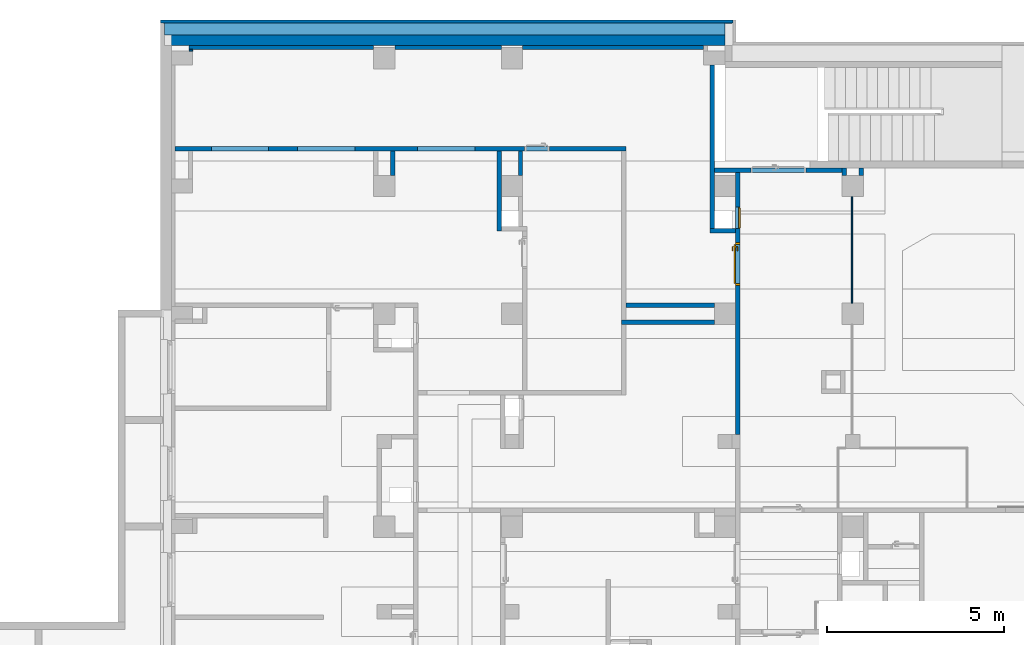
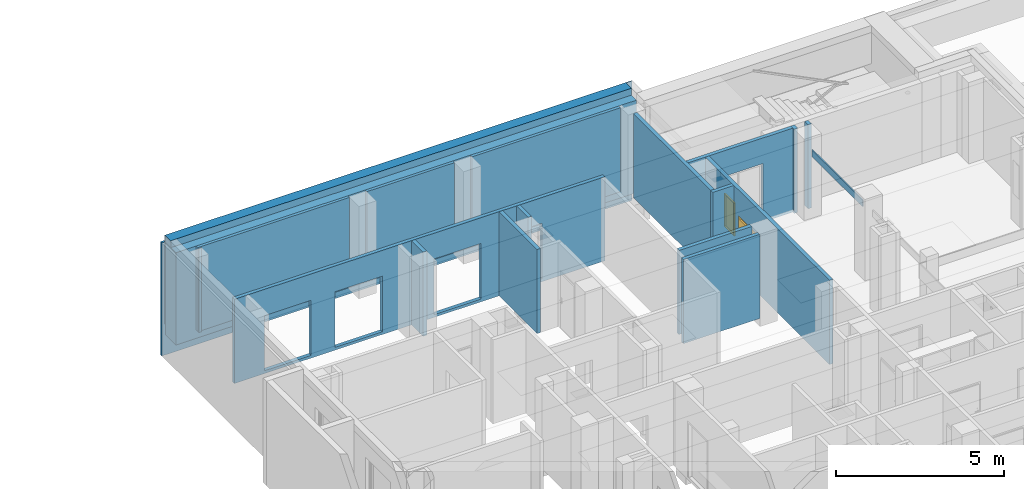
# One storey, part 41 of 84: 19 walls, 1 door, 1 window, 7 openings.
"""IFC4 building model written with IfcOpenShell, lengths in metres."""

from ifc_helpers import new_model, entity, si_unit, converted_unit, derived_unit, frame, frame_2d, origin, origin_with_axes, place, context, subcontext, project, spatial, polyline, rectangle, outline, extrude, clip, bounded_halfspace, closed_shell, open_shell, faceted_brep, surface_model, source, transform, mapped, material, layer, layer_set, layer_usage, type_object, element, fill, save


model = new_model("IFC4")

# Units and contexts
model_context = context("Model", 3, precision=1e-05, world=origin())
body_context = subcontext(model_context, "Body", "Model", "MODEL_VIEW")
ifc_project = project(units=[si_unit("LENGTHUNIT", "METRE"), si_unit("AREAUNIT", "SQUARE_METRE"), si_unit("VOLUMEUNIT", "CUBIC_METRE"), si_unit("MASSUNIT", "GRAM", prefix="KILO"), converted_unit("PLANEANGLEUNIT", "DEGREE", entity("IfcPlaneAngleMeasure", 0.0174532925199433), si_unit("PLANEANGLEUNIT", "RADIAN"), dimensions=[0, 0, 0, 0, 0, 0, 0]), derived_unit("THERMALTRANSMITTANCEUNIT", [(si_unit("POWERUNIT", "WATT"), 1), (si_unit("THERMODYNAMICTEMPERATUREUNIT", "KELVIN"), -1), (si_unit("LENGTHUNIT", "METRE"), -2)]), derived_unit("VOLUMETRICFLOWRATEUNIT", [(si_unit("LENGTHUNIT", "METRE"), 3), (converted_unit("TIMEUNIT", "hour", entity("IfcTimeMeasure", 3600.0), si_unit("TIMEUNIT", "SECOND"), dimensions=[0, 0, 1, 0, 0, 0, 0]), -1), (si_unit("LENGTHUNIT", "METRE"), -1)])], contexts=[model_context])

# Site, building, storey
site_placement = place(None, origin())
site = spatial("IfcSite", under=ifc_project, at=site_placement, Name="3. ASŘ", CompositionType="ELEMENT")
building_placement = place(site_placement, origin())
building = spatial("IfcBuilding", under=site, at=building_placement, Name="Pavilon C", CompositionType="ELEMENT")
storey_placement = place(building_placement, frame((0.0, 0.0, -3.3)))
storey = spatial("IfcBuildingStorey", under=building, at=storey_placement, Name="Půdorys 1.PP", CompositionType="ELEMENT", Elevation=-3.3)

# Wall
ifc_material_1 = material(Name="ZDIVO Z CDm")
ifc_layer_1 = layer(ifc_material_1, 0.125)
ifc_layer_set_1 = layer_set([ifc_layer_1])
ifc_layer_usage_1 = layer_usage(ifc_layer_set_1, "AXIS2", "POSITIVE", 0.0)
wall_1_placement = place(storey_placement, frame((40.05, 27.6, -0.1), z_axis=(0.0, 0.0, 1.0), x_axis=(0.0, 1.0, 0.0)))
element("IfcWall", 1, at=wall_1_placement, inside=storey, material=ifc_layer_usage_1, Name="ZDIVO Z CDm", context=body_context, shape_type="SweptSolid", body=[
    extrude(rectangle(XDim=4.6, YDim=0.125, at=frame_2d((2.3, 0.0625), x_axis=(1.0, 0.0))), origin_with_axes(), (0.0, 0.0, 1.0), 3.05),
])

# Wall, opening
ifc_material_2 = material(Name="ZDIVO Z CDm")
ifc_layer_2 = layer(ifc_material_2, 0.125)
ifc_layer_set_2 = layer_set([ifc_layer_2])
ifc_layer_usage_2 = layer_usage(ifc_layer_set_2, "AXIS2", "POSITIVE", 0.0)
wall_2_placement = place(storey_placement, frame((43.65, 29.3, -0.1), z_axis=(0.0, 0.0, 1.0), x_axis=(-1.0, 0.0, 0.0)))
wall_2 = element("IfcWall", 2, at=wall_2_placement, inside=storey, material=ifc_layer_usage_2, Name="ZDIVO Z CDm", context=body_context, shape_type="SweptSolid", body=[
    extrude(rectangle(XDim=3.6, YDim=0.125, at=frame_2d((1.8, 0.0625), x_axis=(1.0, 0.0))), origin_with_axes(), (0.0, 0.0, 1.0), 3.05),
])
opening_1_placement = place(wall_2_placement, frame((1.025, 0.0, 0.1), z_axis=(0.0, 1.0, 0.0), x_axis=(0.0, 0.0, 1.0)))
element("IfcOpeningElement", 3, at=opening_1_placement, cuts=wall_2, Name="Dveřní otvor", ObjectType="Opening", context=body_context, shape_type="SweptSolid", body=[
    extrude(outline(polyline([(0.0, 1.55), (2.02, 1.55), (2.02, 0.0), (0.0, 0.0), (0.0, 1.55)])), origin_with_axes(), (0.0, 0.0, 1.0), 0.125),
])

# Walls
ifc_material_3 = material(Name="ZDIVO Z CDm")
ifc_layer_3 = layer(ifc_material_3, 0.125)
ifc_layer_set_3 = layer_set([ifc_layer_3])
ifc_layer_usage_3 = layer_usage(ifc_layer_set_3, "AXIS2", "POSITIVE", 0.0)
wall_3_placement = place(storey_placement, frame((43.65, 29.3, -0.1), z_axis=(0.0, 0.0, 1.0), x_axis=(0.0, -1.0, 0.0)))
element("IfcWall", 4, at=wall_3_placement, inside=storey, material=ifc_layer_usage_3, Name="ZDIVO Z CDm", context=body_context, shape_type="SweptSolid", body=[
    extrude(rectangle(XDim=0.199999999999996, YDim=0.125, at=frame_2d((0.0999999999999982, 0.0625), x_axis=(1.0, 0.0))), origin_with_axes(), (0.0, 0.0, 1.0), 3.05),
])
ifc_material_4 = material(Name="ZDIVO Z CDm")
ifc_layer_4 = layer(ifc_material_4, 0.125)
ifc_layer_set_4 = layer_set([ifc_layer_4])
ifc_layer_usage_4 = layer_usage(ifc_layer_set_4, "AXIS2", "POSITIVE", 0.0)
wall_4_placement = place(storey_placement, frame((44.25, 29.1, -0.1), z_axis=(0.0, 0.0, 1.0), x_axis=(0.0, 1.0, 0.0)))
element("IfcWall", 5, at=wall_4_placement, inside=storey, material=ifc_layer_usage_4, Name="ZDIVO Z CDm", context=body_context, shape_type="SweptSolid", body=[
    extrude(rectangle(XDim=0.199999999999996, YDim=0.125, at=frame_2d((0.0999999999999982, 0.0625), x_axis=(1.0, 0.0))), origin_with_axes(), (0.0, 0.0, 1.0), 3.05),
])
ifc_material_5 = material(Name="ZELEZOBETONOVÁ KCE")
ifc_layer_5 = layer(ifc_material_5, 0.62)
ifc_material_6 = material(Name="LIGNOPOR")
ifc_layer_6 = layer(ifc_material_6, 0.025)
ifc_material_7 = material(Name="PÓROBETONOVÉ ZDIVO")
ifc_layer_7 = layer(ifc_material_7, 0.08)
ifc_layer_set_5 = layer_set([ifc_layer_5, ifc_layer_6, ifc_layer_7])
ifc_layer_usage_5 = layer_usage(ifc_layer_set_5, "AXIS2", "POSITIVE", 0.0)
wall_5_placement = place(storey_placement, frame((24.55, 32.75, -1.15), z_axis=(0.0, 0.0, 1.0), x_axis=(1.0, -2.30251823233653e-16, 0.0)))
element("IfcWall", 6, at=wall_5_placement, inside=storey, material=ifc_layer_usage_5, Name="ZELEZOBETONOVÁ KCE", context=body_context, shape_type="Clipping", body=[
    clip(clip(extrude(outline(polyline([(0.105, 3.66215524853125e-15), (15.905, 3.66215524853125e-15), (15.905, 0.62), (16.105, 0.62), (16.105, 0.645), (16.13, 0.645), (16.13, 0.725), (-1.66932571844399e-16, 0.725000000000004), (-1.48512425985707e-16, 0.645000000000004), (0.0799999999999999, 0.645000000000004), (0.0799999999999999, 0.620000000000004), (0.105, 0.620000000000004), (0.105, 3.66215524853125e-15)])), frame((-0.105, -3.66215524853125e-15, 0.0), z_axis=(0.0, 0.0, 1.0), x_axis=(1.0, 0.0, 0.0)), (0.0, 0.0, 1.0), 4.1), bounded_halfspace(frame((7.9, 0.309999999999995, 0.750000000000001), z_axis=(0.0, 0.0, 1.0), x_axis=(2.30251823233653e-16, -1.0, 0.0)), True, origin_with_axes(), polyline([(-1.42756130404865e-16, 0.62), (0.0, 0.0), (15.8, 0.0), (15.8, 0.619999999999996), (-1.42756130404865e-16, 0.62)]))), bounded_halfspace(frame((7.95833333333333, 0.62833333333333, 1.15), z_axis=(0.0, 0.0, 1.0), x_axis=(2.30251823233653e-16, -1.0, 0.0)), True, origin_with_axes(), polyline([(-0.0249999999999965, 0.645), (-0.0249999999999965, 0.62), (-1.42756130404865e-16, 0.62), (15.8, 0.619999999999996), (16.0, 0.619999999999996), (16.0, 0.644999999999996), (-0.0249999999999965, 0.645)]))),
])
ifc_material_8 = material(Name="ZDIVO Z CDm")
ifc_layer_8 = layer(ifc_material_8, 0.125)
ifc_layer_set_6 = layer_set([ifc_layer_8])
ifc_layer_usage_6 = layer_usage(ifc_layer_set_6, "AXIS2", "POSITIVE", 0.0)
wall_6_placement = place(storey_placement, frame((40.65, 27.6, -0.1), z_axis=(0.0, 0.0, 1.0), x_axis=(-1.0, 0.0, 0.0)))
element("IfcWall", 7, at=wall_6_placement, inside=storey, material=ifc_layer_usage_6, Name="ZDIVO Z CDm", context=body_context, shape_type="SweptSolid", body=[
    extrude(rectangle(XDim=0.725, YDim=0.125, at=frame_2d((0.3625, 0.0625), x_axis=(1.0, 0.0))), origin_with_axes(), (0.0, 0.0, 1.0), 3.05),
])
ifc_material_9 = material(Name="ZDIVO Z CDm")
ifc_layer_9 = layer(ifc_material_9, 0.125)
ifc_layer_set_7 = layer_set([ifc_layer_9])
ifc_layer_usage_7 = layer_usage(ifc_layer_set_7, "AXIS2", "POSITIVE", 0.0)
wall_7_placement = place(storey_placement, frame((40.05, 25.5, -0.1), z_axis=(0.0, 0.0, 1.0), x_axis=(-1.0, 0.0, 0.0)))
element("IfcWall", 8, at=wall_7_placement, inside=storey, material=ifc_layer_usage_7, Name="ZDIVO Z CDm", context=body_context, shape_type="SweptSolid", body=[
    extrude(rectangle(XDim=2.495, YDim=0.125, at=frame_2d((1.2475, 0.0625), x_axis=(1.0, 0.0))), origin_with_axes(), (0.0, 0.0, 1.0), 3.05),
])
ifc_material_10 = material(Name="ZDIVO Z CDm")
ifc_layer_10 = layer(ifc_material_10, 0.125)
ifc_layer_set_8 = layer_set([ifc_layer_10])
ifc_layer_usage_8 = layer_usage(ifc_layer_set_8, "AXIS2", "POSITIVE", 0.0)
wall_8_placement = place(storey_placement, frame((37.43, 24.9, -0.1)))
element("IfcWall", 9, at=wall_8_placement, inside=storey, material=ifc_layer_usage_8, Name="ZDIVO Z CDm", context=body_context, shape_type="SweptSolid", body=[
    extrude(rectangle(XDim=2.62, YDim=0.125, at=frame_2d((1.31, 0.0625), x_axis=(1.0, 0.0))), origin_with_axes(), (0.0, 0.0, 1.0), 3.05),
])
ifc_material_11 = material(Name="SDK SVISLA CAST PODHLEDU")
ifc_layer_11 = layer(ifc_material_11, 0.04)
ifc_layer_set_9 = layer_set([ifc_layer_11])
ifc_layer_usage_9 = layer_usage(ifc_layer_set_9, "AXIS2", "POSITIVE", 0.0)
wall_9_placement = place(storey_placement, frame((43.95, 25.5, 2.24), z_axis=(0.0, 0.0, 1.0), x_axis=(0.0, 1.0, 0.0)))
element("IfcWall", 10, at=wall_9_placement, inside=storey, material=ifc_layer_usage_9, Name="SDK SVISLA CAST PODHLEDU", context=body_context, shape_type="SweptSolid", body=[
    extrude(rectangle(XDim=3.0, YDim=0.04, at=frame_2d((1.5, 0.02), x_axis=(1.0, 0.0))), origin_with_axes(), (0.0, 0.0, 1.0), 0.24),
])

# Wall, openings, door, window
ifc_material_12 = material(Name="ZDIVO Z CDm")
ifc_layer_12 = layer(ifc_material_12, 0.125)
ifc_layer_set_10 = layer_set([ifc_layer_12])
ifc_layer_usage_10 = layer_usage(ifc_layer_set_10, "AXIS2", "POSITIVE", 0.0)
wall_10_placement = place(storey_placement, frame((40.65, 29.175, -0.1), z_axis=(0.0, 0.0, 1.0), x_axis=(0.0, -1.0, 0.0)))
wall_10 = element("IfcWall", 11, at=wall_10_placement, inside=storey, material=ifc_layer_usage_10, Name="ZDIVO Z CDm", context=body_context, shape_type="SweptSolid", body=[
    extrude(rectangle(XDim=7.37499999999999, YDim=0.125, at=frame_2d((3.6875, 0.0625), x_axis=(1.0, 0.0))), origin_with_axes(), (0.0, 0.0, 1.0), 3.05),
])
opening_2_placement = place(wall_10_placement, frame((1.975, 0.0, 0.1), z_axis=(0.0, 1.0, 0.0), x_axis=(0.0, 0.0, 1.0)))
opening_2 = element("IfcOpeningElement", 12, at=opening_2_placement, cuts=wall_10, Name="Dveřní otvor", ObjectType="Opening", context=body_context, shape_type="SweptSolid", body=[
    extrude(outline(polyline([(0.0, 1.2), (2.02, 1.2), (2.02, 0.0), (0.0, 0.0), (0.0, 1.2)])), origin_with_axes(), (0.0, 0.0, 1.0), 0.125),
])
opening_3_placement = place(wall_10_placement, frame((1.57500000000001, 0.125, 1.1), z_axis=(0.0, -1.0, 0.0), x_axis=(0.0, 0.0, 1.0)))
opening_3 = element("IfcOpeningElement", 13, at=opening_3_placement, cuts=wall_10, Name="Okenní otvor", ObjectType="Opening", context=body_context, shape_type="SweptSolid", body=[
    extrude(outline(polyline([(0.0, 0.6), (1.2, 0.6), (1.2, 0.0), (0.0, 0.0), (0.0, 0.6)])), origin_with_axes(), (0.0, 0.0, 1.0), 0.125),
])
door_type = type_object("IfcDoorType", Name="D101", OperationType="NOTDEFINED", ParameterTakesPrecedence=False, PredefinedType="DOOR")
shared_shape_1 = source(origin_with_axes(), body_context, "Body", "SurfaceModel", [
    surface_model("IfcShellBasedSurfaceModel", [(0.0, 0.125, 2.02), (0.0, 0.125, -7.65404249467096e-18), (0.05, 0.125, -7.65404249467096e-18), (0.05, 0.125, 2.02), (0.0, 0.0, 7.65404249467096e-18), (0.0, 2.41584530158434e-16, 2.02), (0.05, 2.41584530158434e-16, 2.02), (0.05, 0.0, 7.65404249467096e-18)], [closed_shell([[[0, 1, 2, 3]], [[4, 5, 6, 7]], [[1, 0, 5, 4]], [[2, 1, 4, 7]], [[3, 2, 7, 6]], [[0, 3, 6, 5]]], orient=[[False], [False], [False], [False], [False], [False]])]),
    surface_model("IfcShellBasedSurfaceModel", [(1.15, 0.125, 2.02), (1.15, 0.125, -7.65404249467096e-18), (1.2, 0.125, -7.65404249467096e-18), (1.2, 0.125, 2.02), (1.15, 0.0, 7.65404249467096e-18), (1.15, 2.41584530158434e-16, 2.02), (1.2, 2.41584530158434e-16, 2.02), (1.2, 0.0, 7.65404249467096e-18)], [closed_shell([[[0, 1, 2, 3]], [[4, 5, 6, 7]], [[1, 0, 5, 4]], [[2, 1, 4, 7]], [[3, 2, 7, 6]], [[0, 3, 6, 5]]], orient=[[False], [False], [False], [False], [False], [False]])]),
    surface_model("IfcShellBasedSurfaceModel", [(0.05, 0.125, 2.02), (0.05, 0.125, 1.97), (1.15, 0.125, 1.97), (1.15, 0.125, 2.02), (0.05, 2.41584530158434e-16, 1.97), (0.05, 2.41584530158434e-16, 2.02), (1.15, 2.41584530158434e-16, 2.02), (1.15, 2.41584530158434e-16, 1.97)], [closed_shell([[[0, 1, 2, 3]], [[4, 5, 6, 7]], [[1, 0, 5, 4]], [[2, 1, 4, 7]], [[3, 2, 7, 6]], [[0, 3, 6, 5]]], orient=[[False], [False], [False], [False], [False], [False]])]),
    surface_model("IfcShellBasedSurfaceModel", [(0.05, 0.165, 1.97), (0.05, 0.165, -1.25526296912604e-17), (1.15, 0.165, -1.25526296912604e-17), (1.15, 0.165, 1.97), (0.05, 0.125, -7.65404249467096e-18), (0.05, 0.125, 1.97), (1.15, 0.125, 1.97), (1.15, 0.125, -7.65404249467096e-18)], [closed_shell([[[0, 1, 2, 3]], [[4, 5, 6, 7]], [[1, 0, 5, 4]], [[2, 1, 4, 7]], [[3, 2, 7, 6]], [[0, 3, 6, 5]]], orient=[[False], [False], [False], [False], [False], [False]])]),
    surface_model("IfcShellBasedSurfaceModel", [(1.06, 0.125, 1.125), (1.06, 0.125, 0.91), (1.11, 0.125, 0.91), (1.11, 0.125, 1.125), (1.06, 0.115, 0.91), (1.06, 0.115, 1.125), (1.11, 0.115, 1.125), (1.11, 0.115, 0.91)], [closed_shell([[[0, 1, 2, 3]], [[4, 5, 6, 7]], [[1, 0, 5, 4]], [[2, 1, 4, 7]], [[3, 2, 7, 6]], [[0, 3, 6, 5]]], orient=[[False], [False], [False], [False], [False], [False]])]),
    surface_model("IfcShellBasedSurfaceModel", [(1.085, 0.115, 1.06), (1.08, 0.115, 1.05866025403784), (1.07633974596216, 0.115, 1.055), (1.075, 0.115, 1.05), (1.07633974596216, 0.115, 1.045), (1.08, 0.115, 1.04133974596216), (1.085, 0.115, 1.04), (1.09, 0.115, 1.04133974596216), (1.09366025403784, 0.115, 1.045), (1.095, 0.115, 1.05), (1.09366025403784, 0.115, 1.055), (1.09, 0.115, 1.05866025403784), (1.09, 0.0700000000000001, 1.05866025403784), (1.085, 0.0750000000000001, 1.06), (1.09366025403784, 0.0663397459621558, 1.055), (1.095, 0.0650000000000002, 1.05), (1.09366025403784, 0.0663397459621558, 1.045), (1.09, 0.0700000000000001, 1.04133974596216), (1.085, 0.0750000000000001, 1.04), (1.08, 0.0800000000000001, 1.04133974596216), (1.07633974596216, 0.0836602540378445, 1.045), (1.075, 0.0850000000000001, 1.05), (1.07633974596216, 0.0836602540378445, 1.055), (1.08, 0.0800000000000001, 1.05866025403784), (0.97, 0.0700000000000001, 1.05866025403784), (0.97, 0.0750000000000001, 1.06), (0.97, 0.0663397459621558, 1.055), (0.97, 0.0650000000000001, 1.05), (0.97, 0.0663397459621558, 1.045), (0.97, 0.0700000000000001, 1.04133974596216), (0.97, 0.0750000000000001, 1.04), (0.97, 0.0800000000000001, 1.04133974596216), (0.97, 0.0836602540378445, 1.045), (0.97, 0.0850000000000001, 1.05), (0.97, 0.0836602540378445, 1.055), (0.97, 0.0800000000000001, 1.05866025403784)], [open_shell([[[0, 1, 2, 3, 4, 5, 6, 7, 8, 9, 10, 11]], [[0, 11, 12, 13]], [[11, 10, 14, 12]], [[10, 9, 15, 14]], [[9, 8, 16, 15]], [[8, 7, 17, 16]], [[7, 6, 18, 17]], [[6, 5, 19, 18]], [[5, 4, 20, 19]], [[4, 3, 21, 20]], [[3, 2, 22, 21]], [[2, 1, 23, 22]], [[1, 0, 13, 23]], [[13, 12, 24, 25]], [[12, 14, 26, 24]], [[14, 15, 27, 26]], [[15, 16, 28, 27]], [[16, 17, 29, 28]], [[17, 18, 30, 29]], [[18, 19, 31, 30]], [[19, 20, 32, 31]], [[20, 21, 33, 32]], [[21, 22, 34, 33]], [[22, 23, 35, 34]], [[23, 13, 25, 35]]], orient=[[False], [False], [False], [False], [False], [False], [False], [False], [False], [False], [False], [False], [False], [False], [False], [False], [False], [False], [False], [False], [False], [False], [False], [False], [False]])]),
    surface_model("IfcShellBasedSurfaceModel", [(1.06, 0.165, 1.125), (1.11, 0.165, 1.125), (1.11, 0.165, 0.91), (1.06, 0.165, 0.91), (1.06, 0.175, 0.91), (1.11, 0.175, 0.91), (1.11, 0.175, 1.125), (1.06, 0.175, 1.125)], [closed_shell([[[0, 1, 2, 3]], [[4, 5, 6, 7]], [[3, 4, 7, 0]], [[2, 5, 4, 3]], [[1, 6, 5, 2]], [[0, 7, 6, 1]]], orient=[[False], [False], [False], [False], [False], [False]])]),
    surface_model("IfcShellBasedSurfaceModel", [(1.085, 0.175, 1.06), (1.09, 0.175, 1.05866025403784), (1.09366025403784, 0.175, 1.055), (1.095, 0.175, 1.05), (1.09366025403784, 0.175, 1.045), (1.09, 0.175, 1.04133974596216), (1.085, 0.175, 1.04), (1.08, 0.175, 1.04133974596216), (1.07633974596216, 0.175, 1.045), (1.075, 0.175, 1.05), (1.07633974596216, 0.175, 1.055), (1.08, 0.175, 1.05866025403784), (1.085, 0.215, 1.06), (1.09, 0.22, 1.05866025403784), (1.09366025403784, 0.223660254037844, 1.055), (1.095, 0.225, 1.05), (1.09366025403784, 0.223660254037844, 1.045), (1.09, 0.22, 1.04133974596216), (1.085, 0.215, 1.04), (1.08, 0.21, 1.04133974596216), (1.07633974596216, 0.206339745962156, 1.045), (1.075, 0.205, 1.05), (1.07633974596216, 0.206339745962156, 1.055), (1.08, 0.21, 1.05866025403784), (0.97, 0.215, 1.06), (0.97, 0.22, 1.05866025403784), (0.97, 0.223660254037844, 1.055), (0.97, 0.225, 1.05), (0.97, 0.223660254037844, 1.045), (0.97, 0.22, 1.04133974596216), (0.97, 0.215, 1.04), (0.97, 0.21, 1.04133974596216), (0.97, 0.206339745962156, 1.045), (0.97, 0.205, 1.05), (0.97, 0.206339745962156, 1.055), (0.97, 0.21, 1.05866025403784)], [open_shell([[[0, 1, 2, 3, 4, 5, 6, 7, 8, 9, 10, 11]], [[0, 12, 13, 1]], [[1, 13, 14, 2]], [[2, 14, 15, 3]], [[3, 15, 16, 4]], [[4, 16, 17, 5]], [[5, 17, 18, 6]], [[6, 18, 19, 7]], [[7, 19, 20, 8]], [[8, 20, 21, 9]], [[9, 21, 22, 10]], [[10, 22, 23, 11]], [[11, 23, 12, 0]], [[12, 24, 25, 13]], [[13, 25, 26, 14]], [[14, 26, 27, 15]], [[15, 27, 28, 16]], [[16, 28, 29, 17]], [[17, 29, 30, 18]], [[18, 30, 31, 19]], [[19, 31, 32, 20]], [[20, 32, 33, 21]], [[21, 33, 34, 22]], [[22, 34, 35, 23]], [[23, 35, 24, 12]]], orient=[[False], [False], [False], [False], [False], [False], [False], [False], [False], [False], [False], [False], [False], [False], [False], [False], [False], [False], [False], [False], [False], [False], [False], [False], [False]])]),
])
door_placement = place(opening_2_placement, frame((0.0, 1.20000000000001, 0.124999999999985), z_axis=(1.0, 0.0, 0.0), x_axis=(0.0, -1.0, 1.22464679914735e-16)))
door = element("IfcDoor", 14, at=door_placement, inside=storey, type_object=door_type, Name="D101", OverallHeight=2.02, OverallWidth=1.2, context=body_context, shape_type="MappedRepresentation", body=[
    mapped(shared_shape_1, transform((0.0, 0.0, 0.0), x_axis=(1.0, 0.0, 0.0), y_axis=(0.0, 1.0, 0.0), z_axis=(0.0, 0.0, 1.0), scale=1.0)),
])
fill(opening_2, door)
shared_shape_2 = source(origin_with_axes(), body_context, "Body", "Brep", [
    faceted_brep([(0.0, 0.0600000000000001, 1.2), (0.0, 0.06, 4.91096680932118e-19), (0.02, 0.06, 4.91096680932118e-19), (0.02, 0.0600000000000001, 1.2), (0.0, 0.01, 6.61433067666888e-18), (0.0, 0.0100000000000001, 1.2), (0.02, 0.0100000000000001, 1.2), (0.02, 0.01, 6.61433067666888e-18)], [[[0, 1, 2, 3]], [[4, 5, 6, 7]], [[1, 0, 5, 4]], [[2, 1, 4, 7]], [[3, 2, 7, 6]], [[0, 3, 6, 5]]], orient=[[False], [False], [False], [False], [False], [False]]),
    faceted_brep([(0.58, 0.0600000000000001, 1.2), (0.58, 0.06, 4.91096680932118e-19), (0.6, 0.06, 4.91096680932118e-19), (0.6, 0.0600000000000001, 1.2), (0.58, 0.01, 6.61433067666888e-18), (0.58, 0.0100000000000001, 1.2), (0.6, 0.0100000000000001, 1.2), (0.6, 0.01, 6.61433067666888e-18)], [[[0, 1, 2, 3]], [[4, 5, 6, 7]], [[1, 0, 5, 4]], [[2, 1, 4, 7]], [[3, 2, 7, 6]], [[0, 3, 6, 5]]], orient=[[False], [False], [False], [False], [False], [False]]),
    faceted_brep([(0.02, 0.06, 0.02), (0.02, 0.06, 4.91096680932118e-19), (0.58, 0.06, 4.91096680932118e-19), (0.58, 0.06, 0.02), (0.02, 0.01, 6.61433067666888e-18), (0.02, 0.01, 0.02), (0.58, 0.01, 0.02), (0.58, 0.01, 6.61433067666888e-18)], [[[0, 1, 2, 3]], [[4, 5, 6, 7]], [[1, 0, 5, 4]], [[2, 1, 4, 7]], [[3, 2, 7, 6]], [[0, 3, 6, 5]]], orient=[[False], [False], [False], [False], [False], [False]]),
    faceted_brep([(0.02, 0.0600000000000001, 1.2), (0.02, 0.0600000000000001, 1.18), (0.58, 0.0600000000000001, 1.18), (0.58, 0.0600000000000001, 1.2), (0.02, 0.0100000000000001, 1.18), (0.02, 0.0100000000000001, 1.2), (0.58, 0.0100000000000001, 1.2), (0.58, 0.0100000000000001, 1.18)], [[[0, 1, 2, 3]], [[4, 5, 6, 7]], [[1, 0, 5, 4]], [[2, 1, 4, 7]], [[3, 2, 7, 6]], [[0, 3, 6, 5]]], orient=[[False], [False], [False], [False], [False], [False]]),
    faceted_brep([(0.02, 0.0100000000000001, 1.18), (0.02, 0.01, 0.02), (0.58, 0.01, 0.02), (0.58, 0.0100000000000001, 1.18), (0.02, 0.0, 0.02), (0.02, 1.4210854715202e-16, 1.18), (0.58, 1.4210854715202e-16, 1.18), (0.58, 0.0, 0.02)], [[[0, 1, 2, 3]], [[4, 5, 6, 7]], [[1, 0, 5, 4]], [[2, 1, 4, 7]], [[3, 2, 7, 6]], [[0, 3, 6, 5]]], orient=[[False], [False], [False], [False], [False], [False]]),
])
window_placement = place(opening_3_placement, frame((0.0, 0.599999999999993, -0.00999999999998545), z_axis=(1.0, 0.0, 0.0), x_axis=(0.0, -1.0, 1.22464679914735e-16)))
window = element("IfcWindow", 15, at=window_placement, inside=storey, Name="O01", OverallHeight=1.2, OverallWidth=0.6, PartitioningType="USERDEFINED", PredefinedType="WINDOW", context=body_context, shape_type="MappedRepresentation", body=[
    mapped(shared_shape_2, transform((0.0, 0.0, 0.0), x_axis=(1.0, 0.0, 0.0), y_axis=(0.0, -1.0, 0.0), z_axis=(0.0, 0.0, 1.0), scale=1.0)),
])
fill(opening_3, window)

# Wall, openings
ifc_material_13 = material(Name="ZDIVO Z CDm")
ifc_layer_13 = layer(ifc_material_13, 0.125)
ifc_layer_set_11 = layer_set([ifc_layer_13])
ifc_layer_usage_11 = layer_usage(ifc_layer_set_11, "AXIS2", "POSITIVE", 0.0)
wall_11_placement = place(storey_placement, frame((37.555, 29.91, -0.1), z_axis=(0.0, 0.0, 1.0), x_axis=(-1.0, 0.0, 0.0)))
wall_11 = element("IfcWall", 16, at=wall_11_placement, inside=storey, material=ifc_layer_usage_11, Name="ZDIVO Z CDm", context=body_context, shape_type="SweptSolid", body=[
    extrude(rectangle(XDim=12.705, YDim=0.125, at=frame_2d((6.3525, 0.0625), x_axis=(1.0, 0.0))), origin_with_axes(), (0.0, 0.0, 1.0), 3.05),
])
opening_4_placement = place(wall_11_placement, frame((2.855, 0.125, 0.1), z_axis=(0.0, -1.0, 0.0), x_axis=(0.0, 0.0, 1.0)))
element("IfcOpeningElement", 17, at=opening_4_placement, cuts=wall_11, Name="Dveřní otvor", ObjectType="Opening", context=body_context, shape_type="SweptSolid", body=[
    extrude(outline(polyline([(0.0, 0.7), (2.02, 0.7), (2.02, 0.0), (0.0, 0.0), (0.0, 0.7)])), origin_with_axes(), (0.0, 0.0, 1.0), 0.125),
])
opening_5_placement = place(wall_11_placement, frame((10.075, 0.0, 0.1), z_axis=(0.0, 1.0, 0.0), x_axis=(0.0, 0.0, 1.0)))
element("IfcOpeningElement", 18, at=opening_5_placement, cuts=wall_11, Name="Dveřní otvor", ObjectType="Opening", context=body_context, shape_type="SweptSolid", body=[
    extrude(outline(polyline([(0.0, 1.6), (2.0, 1.6), (2.0, 0.0), (0.0, 0.0), (0.0, 1.6)])), origin_with_axes(), (0.0, 0.0, 1.0), 0.125),
])
opening_6_placement = place(wall_11_placement, frame((7.635, 0.0, 0.1), z_axis=(0.0, 1.0, 0.0), x_axis=(0.0, 0.0, 1.0)))
element("IfcOpeningElement", 19, at=opening_6_placement, cuts=wall_11, Name="Dveřní otvor", ObjectType="Opening", context=body_context, shape_type="SweptSolid", body=[
    extrude(outline(polyline([(0.0, 1.62), (2.02, 1.62), (2.02, 0.0), (0.0, 0.0), (0.0, 1.62)])), origin_with_axes(), (0.0, 0.0, 1.0), 0.125),
])
opening_7_placement = place(wall_11_placement, frame((4.245, 0.0, 0.1), z_axis=(0.0, 1.0, 0.0), x_axis=(0.0, 0.0, 1.0)))
element("IfcOpeningElement", 20, at=opening_7_placement, cuts=wall_11, Name="Dveřní otvor", ObjectType="Opening", context=body_context, shape_type="SweptSolid", body=[
    extrude(outline(polyline([(0.0, 1.61999999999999), (2.02, 1.61999999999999), (2.02, 0.0), (0.0, 0.0), (0.0, 1.61999999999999)])), origin_with_axes(), (0.0, 0.0, 1.0), 0.125),
])

# Walls
ifc_material_14 = material(Name="ZDIVO Z CDm")
ifc_layer_14 = layer(ifc_material_14, 0.125)
ifc_layer_set_12 = layer_set([ifc_layer_14])
ifc_layer_usage_12 = layer_usage(ifc_layer_set_12, "AXIS2", "POSITIVE", 0.0)
wall_12_placement = place(storey_placement, frame((31.05, 29.1, -0.1), z_axis=(0.0, 0.0, 1.0), x_axis=(0.0, 1.0, 0.0)))
element("IfcWall", 21, at=wall_12_placement, inside=storey, material=ifc_layer_usage_12, Name="ZDIVO Z CDm", context=body_context, shape_type="SweptSolid", body=[
    extrude(rectangle(XDim=0.685, YDim=0.125, at=frame_2d((0.3425, 0.0625), x_axis=(1.0, 0.0))), origin_with_axes(), (0.0, 0.0, 1.0), 3.05),
])
ifc_material_15 = material(Name="ZDIVO Z CDm")
ifc_layer_15 = layer(ifc_material_15, 0.125)
ifc_layer_set_13 = layer_set([ifc_layer_15])
ifc_layer_usage_13 = layer_usage(ifc_layer_set_13, "AXIS2", "POSITIVE", 0.0)
wall_13_placement = place(storey_placement, frame((34.65, 29.1, -0.1), z_axis=(0.0, 0.0, 1.0), x_axis=(0.0, 1.0, 0.0)))
element("IfcWall", 22, at=wall_13_placement, inside=storey, material=ifc_layer_usage_13, Name="ZDIVO Z CDm", context=body_context, shape_type="SweptSolid", body=[
    extrude(rectangle(XDim=0.685, YDim=0.125, at=frame_2d((0.3425, 0.0625), x_axis=(1.0, 0.0))), origin_with_axes(), (0.0, 0.0, 1.0), 3.05),
])
ifc_material_16 = material(Name="ZDIVO Z CDm")
ifc_layer_16 = layer(ifc_material_16, 0.125)
ifc_layer_set_14 = layer_set([ifc_layer_16])
ifc_layer_usage_14 = layer_usage(ifc_layer_set_14, "AXIS2", "POSITIVE", 0.0)
wall_14_placement = place(storey_placement, frame((34.05, 27.525, -0.1), z_axis=(0.0, 0.0, 1.0), x_axis=(0.0, 1.0, 0.0)))
element("IfcWall", 23, at=wall_14_placement, inside=storey, material=ifc_layer_usage_14, Name="ZDIVO Z CDm", context=body_context, shape_type="SweptSolid", body=[
    extrude(rectangle(XDim=2.26, YDim=0.125, at=frame_2d((1.13, 0.0625), x_axis=(1.0, 0.0))), origin_with_axes(), (0.0, 0.0, 1.0), 3.05),
])
ifc_material_17 = material(Name="PÓROBETONOVÉ ZDIVO")
ifc_layer_17 = layer(ifc_material_17, 0.1)
ifc_layer_set_15 = layer_set([ifc_layer_17])
ifc_layer_usage_15 = layer_usage(ifc_layer_set_15, "AXIS2", "POSITIVE", 0.0)
wall_15_placement = place(storey_placement, frame((34.05, 32.75, -0.1), z_axis=(0.0, 0.0, 1.0), x_axis=(-1.0, 0.0, 0.0)))
element("IfcWall", 24, at=wall_15_placement, inside=storey, material=ifc_layer_usage_15, Name="PÓROBETONOVÉ ZDIVO", context=body_context, shape_type="SweptSolid", body=[
    extrude(rectangle(XDim=3.0, YDim=0.1, at=frame_2d((1.5, 0.05), x_axis=(1.0, 0.0))), origin_with_axes(), (0.0, 0.0, 1.0), 3.05),
])
ifc_material_18 = material(Name="PÓROBETONOVÉ ZDIVO")
ifc_layer_18 = layer(ifc_material_18, 0.1)
ifc_layer_set_16 = layer_set([ifc_layer_18])
ifc_layer_usage_16 = layer_usage(ifc_layer_set_16, "AXIS2", "POSITIVE", 0.0)
wall_16_placement = place(storey_placement, frame((39.75, 32.75, -0.1), z_axis=(0.0, 0.0, 1.0), x_axis=(-1.0, 0.0, 0.0)))
element("IfcWall", 25, at=wall_16_placement, inside=storey, material=ifc_layer_usage_16, Name="PÓROBETONOVÉ ZDIVO", context=body_context, shape_type="SweptSolid", body=[
    extrude(rectangle(XDim=5.10000000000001, YDim=0.1, at=frame_2d((2.55000000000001, 0.05), x_axis=(1.0, 0.0))), origin_with_axes(), (0.0, 0.0, 1.0), 3.05),
])
ifc_material_19 = material(Name="PÓROBETONOVÉ ZDIVO")
ifc_layer_19 = layer(ifc_material_19, 0.1)
ifc_layer_set_17 = layer_set([ifc_layer_19])
ifc_layer_usage_17 = layer_usage(ifc_layer_set_17, "AXIS2", "POSITIVE", 0.0)
wall_17_placement = place(storey_placement, frame((25.35, 32.6, -0.1), z_axis=(0.0, 0.0, 1.0), x_axis=(0.0, 1.0, 0.0)))
element("IfcWall", 26, at=wall_17_placement, inside=storey, material=ifc_layer_usage_17, Name="PÓROBETONOVÉ ZDIVO", context=body_context, shape_type="SweptSolid", body=[
    extrude(rectangle(XDim=0.05, YDim=0.1, at=frame_2d((0.025, 0.05), x_axis=(1.0, 0.0))), origin_with_axes(), (0.0, 0.0, 1.0), 3.05),
])
ifc_material_20 = material(Name="PÓROBETONOVÉ ZDIVO")
ifc_layer_20 = layer(ifc_material_20, 0.1)
ifc_layer_set_18 = layer_set([ifc_layer_20])
ifc_layer_usage_18 = layer_usage(ifc_layer_set_18, "AXIS2", "POSITIVE", 0.0)
wall_18_placement = place(storey_placement, frame((30.45, 32.75, -0.1), z_axis=(0.0, 0.0, 1.0), x_axis=(-1.0, 0.0, 0.0)))
element("IfcWall", 27, at=wall_18_placement, inside=storey, material=ifc_layer_usage_18, Name="PÓROBETONOVÉ ZDIVO", context=body_context, shape_type="SweptSolid", body=[
    extrude(rectangle(XDim=5.20000000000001, YDim=0.1, at=frame_2d((2.6, 0.05), x_axis=(1.0, 0.0))), origin_with_axes(), (0.0, 0.0, 1.0), 3.05),
])
ifc_material_21 = material(Name="ZELEZOBETONOVÁ KCE")
ifc_layer_21 = layer(ifc_material_21, 0.32)
ifc_material_22 = material(Name="LIGNOPOR")
ifc_layer_22 = layer(ifc_material_22, 0.025)
ifc_layer_set_19 = layer_set([ifc_layer_21, ifc_layer_22])
ifc_layer_usage_19 = layer_usage(ifc_layer_set_19, "AXIS2", "POSITIVE", 0.0)
wall_19_placement = place(storey_placement, frame((24.55, 33.05, 2.95)))
element("IfcWall", 28, at=wall_19_placement, inside=storey, material=ifc_layer_usage_19, context=body_context, shape_type="SweptSolid", body=[
    extrude(outline(polyline([(0.025, 0.0), (15.825, 0.0), (15.825, 0.32), (16.025, 0.32), (16.025, 0.345), (0.0, 0.345), (0.0, 0.32), (0.025, 0.32), (0.025, 0.0)])), frame((-0.025, 0.0, 0.0), z_axis=(0.0, 0.0, 1.0), x_axis=(1.0, 0.0, 0.0)), (0.0, 0.0, 1.0), 0.25),
])

save(model, "model.ifc")
